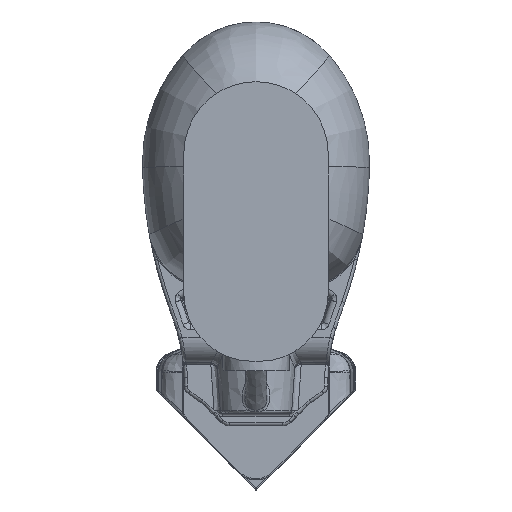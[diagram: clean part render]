
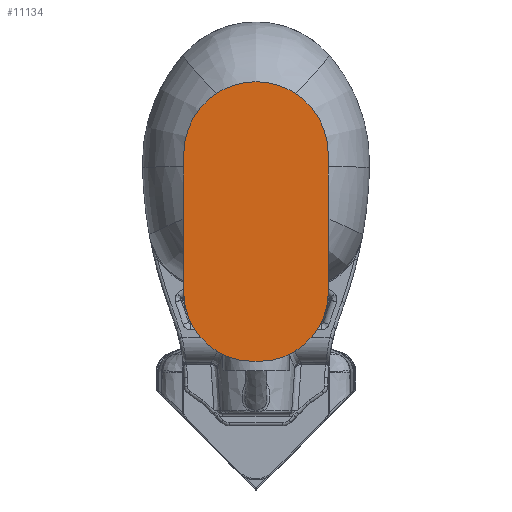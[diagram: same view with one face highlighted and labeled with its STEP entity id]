
A CAD part, front view. The second image highlights one B-rep face of the part: STEP entity #11134.
In plain terms, the highlighted planar face has unit normal (0, -1, 0).
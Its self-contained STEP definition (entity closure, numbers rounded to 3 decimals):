
#1965 = PLANE ( 'NONE',  #79072 ) ;
#2598 = EDGE_CURVE ( 'NONE', #19582, #41911, #83816, .T. ) ;
#3969 = ORIENTED_EDGE ( 'NONE', *, *, #73362, .T. ) ;
#5911 = VERTEX_POINT ( 'NONE', #29304 ) ;
#6826 = CARTESIAN_POINT ( 'NONE',  ( 115., -395., 126.5 ) ) ;
#9394 = LINE ( 'NONE', #6826, #40889 ) ;
#11134 = ADVANCED_FACE ( 'NONE', ( #36912 ), #1965, .F. ) ;
#11792 = EDGE_CURVE ( 'NONE', #5911, #20470, #22800, .T. ) ;
#12285 = VECTOR ( 'NONE', #62480, 1000. ) ;
#16018 = ORIENTED_EDGE ( 'NONE', *, *, #25647, .F. ) ;
#16106 = VERTEX_POINT ( 'NONE', #63493 ) ;
#17127 = DIRECTION ( 'NONE',  ( 0., -1., 0. ) ) ;
#18288 = CARTESIAN_POINT ( 'NONE',  ( -115., -395., 126.5 ) ) ;
#19509 = VERTEX_POINT ( 'NONE', #21800 ) ;
#19582 = VERTEX_POINT ( 'NONE', #50864 ) ;
#20166 = CARTESIAN_POINT ( 'NONE',  ( 0., -395., 126.5 ) ) ;
#20427 = EDGE_CURVE ( 'NONE', #19509, #16106, #64917, .T. ) ;
#20470 = VERTEX_POINT ( 'NONE', #45031 ) ;
#21800 = CARTESIAN_POINT ( 'NONE',  ( -115., -395., -93.5 ) ) ;
#21903 = CARTESIAN_POINT ( 'NONE',  ( 5., -395., -93.5 ) ) ;
#22678 = DIRECTION ( 'NONE',  ( 0., 1., 0. ) ) ;
#22800 = CIRCLE ( 'NONE', #63389, 115. ) ;
#25647 = EDGE_CURVE ( 'NONE', #57848, #19582, #9394, .T. ) ;
#27174 = DIRECTION ( 'NONE',  ( 0., 0., 1. ) ) ;
#28214 = DIRECTION ( 'NONE',  ( 0., -1., 0. ) ) ;
#29130 = ORIENTED_EDGE ( 'NONE', *, *, #61190, .T. ) ;
#29304 = CARTESIAN_POINT ( 'NONE',  ( 0., -395., 241.5 ) ) ;
#29687 = LINE ( 'NONE', #33709, #12285 ) ;
#31832 = CARTESIAN_POINT ( 'NONE',  ( 115., -395., 126.5 ) ) ;
#33709 = CARTESIAN_POINT ( 'NONE',  ( -5., -395., -203.5 ) ) ;
#34891 = DIRECTION ( 'NONE',  ( 0., 0., 1. ) ) ;
#35156 = AXIS2_PLACEMENT_3D ( 'NONE', #83707, #28214, #34891 ) ;
#36343 = CARTESIAN_POINT ( 'NONE',  ( 0., -395., 126.5 ) ) ;
#36912 = FACE_OUTER_BOUND ( 'NONE', #80694, .T. ) ;
#40129 = DIRECTION ( 'NONE',  ( 0., 0., -1. ) ) ;
#40889 = VECTOR ( 'NONE', #42937, 1000. ) ;
#41411 = CIRCLE ( 'NONE', #35156, 115. ) ;
#41911 = VERTEX_POINT ( 'NONE', #51262 ) ;
#42819 = DIRECTION ( 'NONE',  ( 0., 0., 1. ) ) ;
#42937 = DIRECTION ( 'NONE',  ( 0., 0., -1. ) ) ;
#44480 = ORIENTED_EDGE ( 'NONE', *, *, #67137, .T. ) ;
#45031 = CARTESIAN_POINT ( 'NONE',  ( -115., -395., 126.5 ) ) ;
#46602 = ORIENTED_EDGE ( 'NONE', *, *, #2598, .F. ) ;
#47763 = ORIENTED_EDGE ( 'NONE', *, *, #11792, .T. ) ;
#50864 = CARTESIAN_POINT ( 'NONE',  ( 115., -395., -93.5 ) ) ;
#51262 = CARTESIAN_POINT ( 'NONE',  ( 5., -395., -203.5 ) ) ;
#52298 = DIRECTION ( 'NONE',  ( 0., 0., 1. ) ) ;
#56144 = DIRECTION ( 'NONE',  ( 0., 1., 0. ) ) ;
#57848 = VERTEX_POINT ( 'NONE', #31832 ) ;
#61190 = EDGE_CURVE ( 'NONE', #20470, #19509, #68818, .T. ) ;
#62480 = DIRECTION ( 'NONE',  ( 1., 0., 0. ) ) ;
#63389 = AXIS2_PLACEMENT_3D ( 'NONE', #20166, #68709, #27174 ) ;
#63493 = CARTESIAN_POINT ( 'NONE',  ( -5., -395., -203.5 ) ) ;
#64917 = CIRCLE ( 'NONE', #70567, 110. ) ;
#67137 = EDGE_CURVE ( 'NONE', #16106, #41911, #29687, .T. ) ;
#68709 = DIRECTION ( 'NONE',  ( 0., -1., 0. ) ) ;
#68818 = LINE ( 'NONE', #18288, #79670 ) ;
#70567 = AXIS2_PLACEMENT_3D ( 'NONE', #72052, #17127, #52298 ) ;
#71196 = DIRECTION ( 'NONE',  ( 0., 0., 1. ) ) ;
#72052 = CARTESIAN_POINT ( 'NONE',  ( -5., -395., -93.5 ) ) ;
#73362 = EDGE_CURVE ( 'NONE', #57848, #5911, #41411, .T. ) ;
#79072 = AXIS2_PLACEMENT_3D ( 'NONE', #36343, #22678, #71196 ) ;
#79670 = VECTOR ( 'NONE', #40129, 1000. ) ;
#80694 = EDGE_LOOP ( 'NONE', ( #3969, #47763, #29130, #83256, #44480, #46602, #16018 ) ) ;
#83256 = ORIENTED_EDGE ( 'NONE', *, *, #20427, .T. ) ;
#83707 = CARTESIAN_POINT ( 'NONE',  ( 0., -395., 126.5 ) ) ;
#83816 = CIRCLE ( 'NONE', #84518, 110. ) ;
#84518 = AXIS2_PLACEMENT_3D ( 'NONE', #21903, #56144, #42819 ) ;
